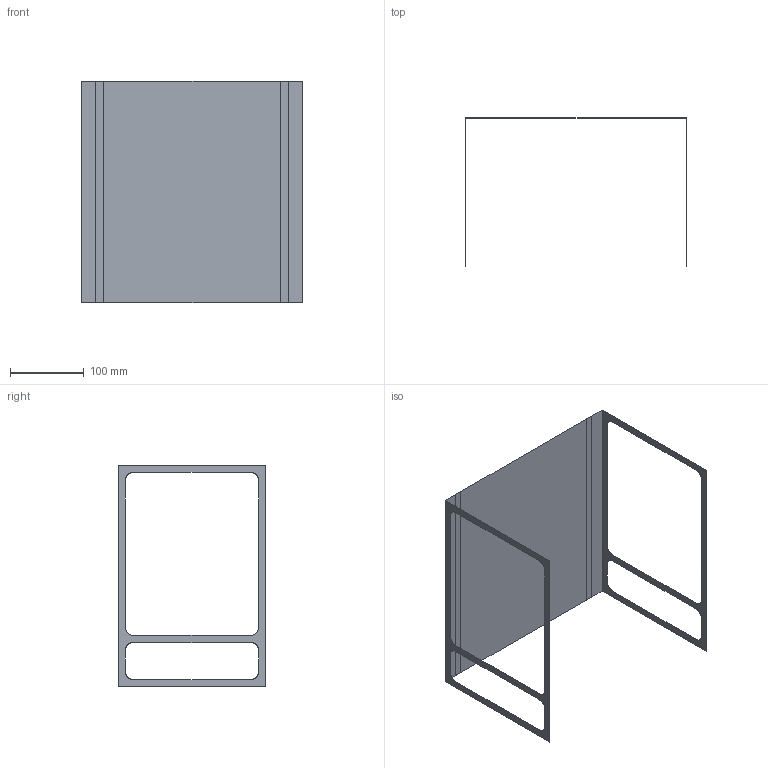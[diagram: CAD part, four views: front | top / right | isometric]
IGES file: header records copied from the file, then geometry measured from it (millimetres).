
Start section: SolidWorks IGES file using analytic representation for surfaces
Global section: file name: C:\Documents and Settings\Pc\Escritorio\Modelos 3D\Capítulo 1 (Estático)\PRACTICAS\P-3\P-3.IGS; native system: SolidWorks 2010; preprocessor: SolidWorks 2010; author: Pc; date: 100623.110620; units: millimetre
Bounding box: 300 x 200 x 300 mm (x, y, z)
Surface area: 119143.3 mm2 (no closed solid volume)
Topology: 0 solids, 0 shells, 5 faces, 164 edges, 164 vertices
Faces by surface type: bspline 5
